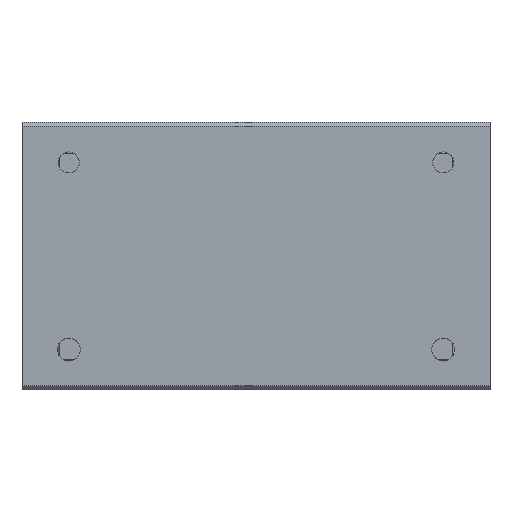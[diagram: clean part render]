
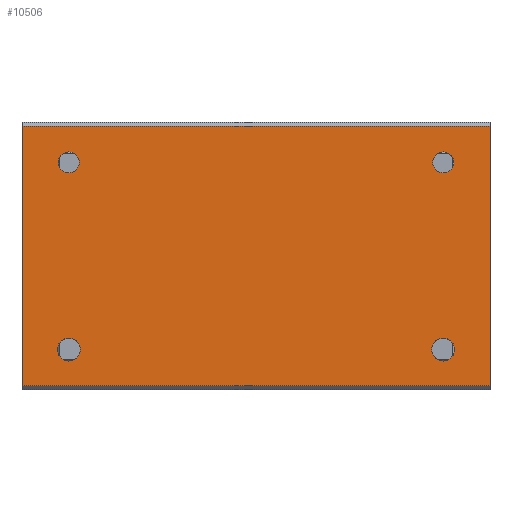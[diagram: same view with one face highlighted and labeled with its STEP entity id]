
A CAD part, front view. The second image highlights one B-rep face of the part: STEP entity #10506.
In plain terms, the highlighted planar face has unit normal (0, -1, 0).
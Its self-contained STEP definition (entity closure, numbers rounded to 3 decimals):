
#377=CIRCLE('',#11128,0.857);
#378=CIRCLE('',#11133,0.857);
#384=CIRCLE('',#11145,0.784);
#385=CIRCLE('',#11148,0.784);
#1503=ORIENTED_EDGE('',*,*,#4318,.F.);
#1504=ORIENTED_EDGE('',*,*,#4316,.F.);
#1505=ORIENTED_EDGE('',*,*,#4301,.F.);
#1506=ORIENTED_EDGE('',*,*,#4297,.F.);
#1507=ORIENTED_EDGE('',*,*,#4274,.T.);
#1508=ORIENTED_EDGE('',*,*,#4709,.F.);
#1509=ORIENTED_EDGE('',*,*,#4257,.F.);
#1510=ORIENTED_EDGE('',*,*,#4708,.T.);
#4257=EDGE_CURVE('',#5870,#5871,#6959,.T.);
#4274=EDGE_CURVE('',#5888,#5887,#6976,.T.);
#4297=EDGE_CURVE('',#5906,#5906,#377,.T.);
#4301=EDGE_CURVE('',#5909,#5909,#378,.T.);
#4316=EDGE_CURVE('',#5919,#5919,#384,.T.);
#4318=EDGE_CURVE('',#5920,#5920,#385,.T.);
#4708=EDGE_CURVE('',#5870,#5888,#7140,.T.);
#4709=EDGE_CURVE('',#5871,#5887,#7141,.T.);
#5870=VERTEX_POINT('',#15851);
#5871=VERTEX_POINT('',#15853);
#5887=VERTEX_POINT('',#15886);
#5888=VERTEX_POINT('',#15888);
#5906=VERTEX_POINT('',#15932);
#5909=VERTEX_POINT('',#15940);
#5919=VERTEX_POINT('',#15968);
#5920=VERTEX_POINT('',#15972);
#6959=LINE('',#15852,#7924);
#6976=LINE('',#15887,#7941);
#7140=LINE('',#16750,#8105);
#7141=LINE('',#16752,#8106);
#7924=VECTOR('',#12384,1000.);
#7941=VECTOR('',#12403,1000.);
#8105=VECTOR('',#13129,1000.);
#8106=VECTOR('',#13132,1000.);
#8917=EDGE_LOOP('',(#1503));
#8918=EDGE_LOOP('',(#1504));
#8919=EDGE_LOOP('',(#1505));
#8920=EDGE_LOOP('',(#1506));
#8921=EDGE_LOOP('',(#1507,#1508,#1509,#1510));
#9595=FACE_BOUND('',#8917,.T.);
#9596=FACE_BOUND('',#8918,.T.);
#9597=FACE_BOUND('',#8919,.T.);
#9598=FACE_BOUND('',#8920,.T.);
#9599=FACE_BOUND('',#8921,.T.);
#10238=PLANE('',#11404);
#10506=ADVANCED_FACE('',(#9595,#9596,#9597,#9598,#9599),#10238,.F.);
#11128=AXIS2_PLACEMENT_3D('',#15931,#12434,#12435);
#11133=AXIS2_PLACEMENT_3D('',#15939,#12444,#12445);
#11145=AXIS2_PLACEMENT_3D('',#15967,#12474,#12475);
#11148=AXIS2_PLACEMENT_3D('',#15971,#12480,#12481);
#11404=AXIS2_PLACEMENT_3D('',#16751,#13130,#13131);
#12384=DIRECTION('',(0.,0.,-1.));
#12403=DIRECTION('',(0.,0.,-1.));
#12434=DIRECTION('',(0.,-1.,0.));
#12435=DIRECTION('',(0.,0.,-1.));
#12444=DIRECTION('',(0.,-1.,0.));
#12445=DIRECTION('',(0.,0.,-1.));
#12474=DIRECTION('',(0.,-1.,0.));
#12475=DIRECTION('',(0.,0.,-1.));
#12480=DIRECTION('',(0.,-1.,0.));
#12481=DIRECTION('',(0.,0.,-1.));
#13129=DIRECTION('',(-1.,0.,0.));
#13130=DIRECTION('',(0.,1.,0.));
#13131=DIRECTION('',(0.,0.,1.));
#13132=DIRECTION('',(-1.,0.,0.));
#15851=CARTESIAN_POINT('',(35.,0.,9.7));
#15852=CARTESIAN_POINT('',(35.,0.,9.7));
#15853=CARTESIAN_POINT('',(35.,0.,-9.7));
#15886=CARTESIAN_POINT('',(0.,0.,-9.7));
#15887=CARTESIAN_POINT('',(0.,0.,9.7));
#15888=CARTESIAN_POINT('',(0.,0.,9.7));
#15931=CARTESIAN_POINT('',(3.5,0.,-7.));
#15932=CARTESIAN_POINT('',(3.5,0.,-7.857));
#15939=CARTESIAN_POINT('',(31.5,0.,-7.));
#15940=CARTESIAN_POINT('',(31.5,0.,-7.857));
#15967=CARTESIAN_POINT('',(3.5,0.,7.));
#15968=CARTESIAN_POINT('',(3.5,0.,6.217));
#15971=CARTESIAN_POINT('',(31.5,0.,7.));
#15972=CARTESIAN_POINT('',(31.5,0.,6.217));
#16750=CARTESIAN_POINT('',(35.,0.,9.7));
#16751=CARTESIAN_POINT('',(35.,0.,9.7));
#16752=CARTESIAN_POINT('',(35.,0.,-9.7));
